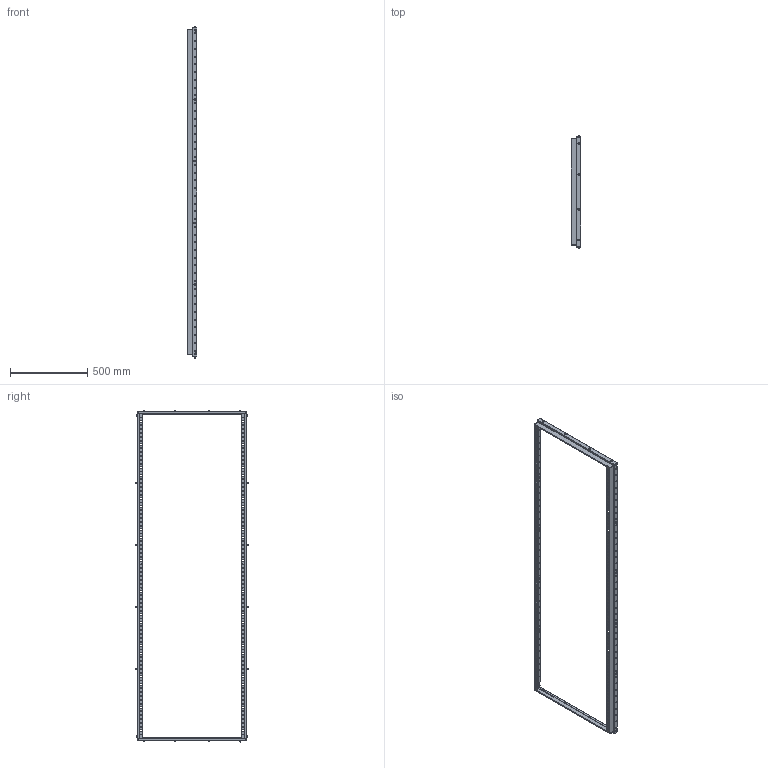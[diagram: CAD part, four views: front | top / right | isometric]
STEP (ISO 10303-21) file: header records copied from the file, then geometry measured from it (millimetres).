
FILE_DESCRIPTION (( 'STEP AP214' ), '1' );
FILE_NAME ('FO-00-UVF-220-080 Ðàìà äëÿ ïëàñòðîíîâ 2200õ800.STEP', '2025-09-25T11:18:36', ( '' ), ( '' ), 'SwSTEP 2.0', 'SolidWorks 2023', '' );
FILE_SCHEMA (( 'AUTOMOTIVE_DESIGN' ));
Length unit declared in the file: millimetre
Products named in the file (1): FO-00-UVF-220-080 Рама для пластронов 2200х800
Bounding box: 60.8 x 725 x 2146 mm (x, y, z)
Volume: 864267.6 mm3; surface area: 1037579.1 mm2
Topology: 1 solids, 1 shells, 1980 faces, 5258 edges, 3472 vertices
Faces by surface type: plane 1068, cylinder 832, cone 32, sphere 32, torus 16
Entity records: 63081 total; most frequent: CARTESIAN_POINT 11783, ORIENTED_EDGE 10516, DIRECTION 10468, EDGE_CURVE 5258, AXIS2_PLACEMENT_3D 3501, VERTEX_POINT 3472, VECTOR 3466, LINE 3466
